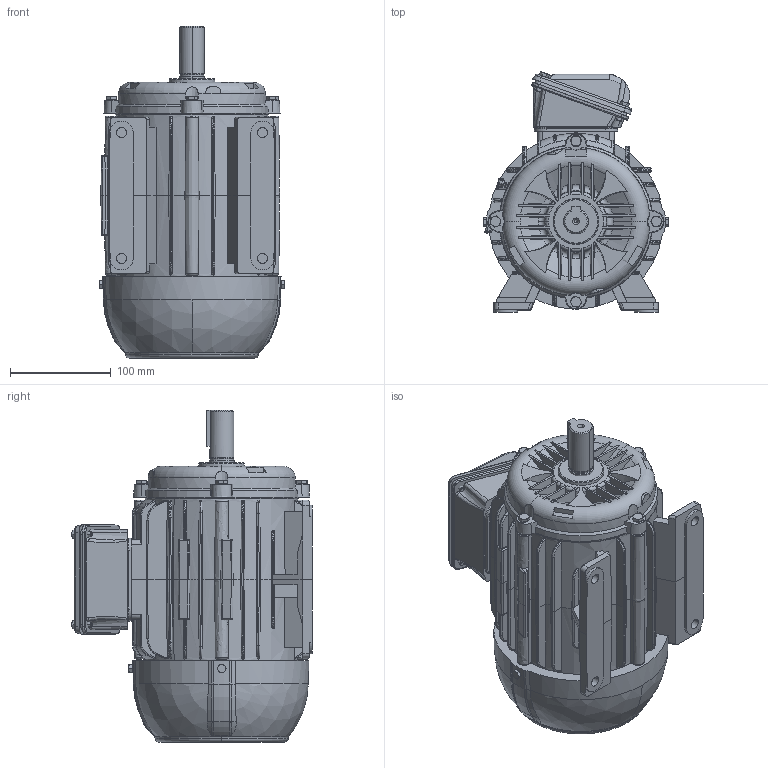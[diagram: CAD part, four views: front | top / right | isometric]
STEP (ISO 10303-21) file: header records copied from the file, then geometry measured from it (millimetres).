
FILE_DESCRIPTION (( 'STEP AP203' ), '1' );
FILE_NAME ('d458.STEP', '2023-04-25T17:34:08', ( 'WEG' ), ( 'WEG' ), 'SwSTEP 2.0', 'SolidWorks 2018', '' );
FILE_SCHEMA (( 'CONFIG_CONTROL_DESIGN' ));
Length unit declared in the file: millimetre
Products named in the file (7): REFERENCE_SOLID; W22_FRAME_90L_WITH_FOOT_TOP; d458; W22_FAN_COVER_90; W22_DE_ENDSHIELD_90_STANDARD; W22_TERMINAL_BOX_90; W22_DE_SHAFT_90
Assembly tree (6 placements, depth 2):
  d458
    W22_FRAME_90L_WITH_FOOT_TOP
    W22_DE_ENDSHIELD_90_STANDARD
    W22_FAN_COVER_90
    W22_DE_SHAFT_90
    W22_TERMINAL_BOX_90
    REFERENCE_SOLID
Bounding box: 184.48 x 238.98 x 330 mm (x, y, z)
Volume: 6161906.1 mm3; surface area: 451823 mm2
Topology: 18 solids, 25 shells, 2627 faces, 6667 edges, 4229 vertices
Faces by surface type: plane 1104, cylinder 807, bspline 365, cone 255, torus 82, sphere 14
Entity records: 95038 total; most frequent: CARTESIAN_POINT 34603, ORIENTED_EDGE 13314, DIRECTION 11464, EDGE_CURVE 6657, VERTEX_POINT 4229, AXIS2_PLACEMENT_3D 4213, VECTOR 3038, LINE 3038
